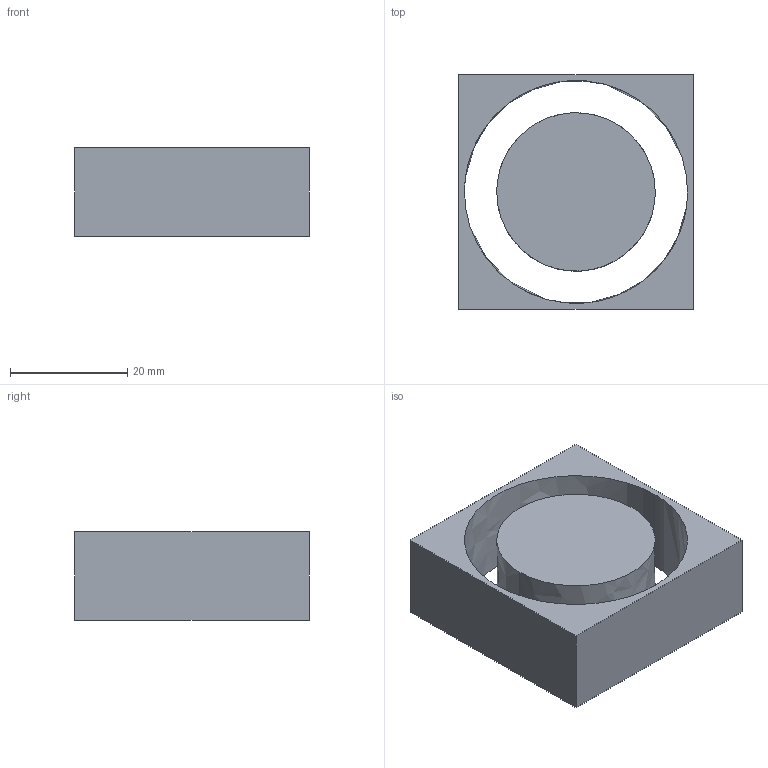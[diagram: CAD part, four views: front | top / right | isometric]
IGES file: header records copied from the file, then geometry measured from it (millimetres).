
Start section:  PTC IGES file: fan40.igs
Global section: file name: fan40.igs; native system: Pro/ENGINEER by Parametric Technology Corporation; preprocessor: 2011490; author: JE18792; organization: Unknown; date: 20131128.192100; units: millimetre
Bounding box: 40 x 40 x 15 mm (x, y, z)
Volume: 15576.6 mm3; surface area: 7539.9 mm2
Topology: 2 solids, 2 shells, 12 faces, 24 edges, 16 vertices
Faces by surface type: bspline 12
